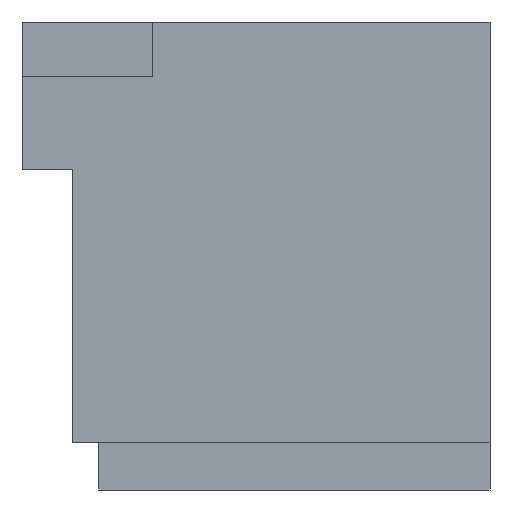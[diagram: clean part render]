
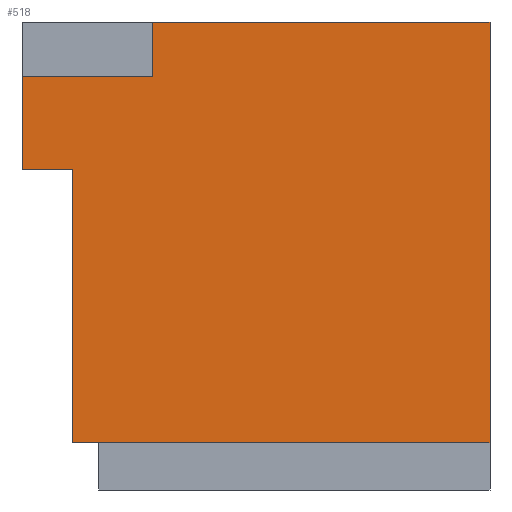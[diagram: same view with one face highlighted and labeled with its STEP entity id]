
A CAD part, front view. The second image highlights one B-rep face of the part: STEP entity #518.
In plain terms, the highlighted planar face has unit normal (0, -1, 0).
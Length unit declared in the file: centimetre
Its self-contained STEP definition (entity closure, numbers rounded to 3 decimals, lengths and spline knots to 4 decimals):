
#8 = DIRECTION ( 'NONE',  ( 1., 0., 0. ) ) ;
#13 = DIRECTION ( 'NONE',  ( 0., 0., 1. ) ) ;
#28 = VERTEX_POINT ( 'NONE', #1123 ) ;
#41 = VERTEX_POINT ( 'NONE', #512 ) ;
#49 = ORIENTED_EDGE ( 'NONE', *, *, #1105, .T. ) ;
#63 = VERTEX_POINT ( 'NONE', #77 ) ;
#65 = LINE ( 'NONE', #248, #1014 ) ;
#73 = CARTESIAN_POINT ( 'NONE',  ( 108.2708, 0., 684.1476 ) ) ;
#77 = CARTESIAN_POINT ( 'NONE',  ( 0., 0., 684.1476 ) ) ;
#92 = DIRECTION ( 'NONE',  ( -1., 0., 0. ) ) ;
#143 = VERTEX_POINT ( 'NONE', #378 ) ;
#187 = ORIENTED_EDGE ( 'NONE', *, *, #731, .T. ) ;
#193 = CARTESIAN_POINT ( 'NONE',  ( 278.4919, 0., 1000. ) ) ;
#207 = LINE ( 'NONE', #214, #485 ) ;
#214 = CARTESIAN_POINT ( 'NONE',  ( 278.4919, 0., 883.9255 ) ) ;
#217 = VERTEX_POINT ( 'NONE', #418 ) ;
#221 = EDGE_CURVE ( 'NONE', #822, #670, #207, .T. ) ;
#241 = VECTOR ( 'NONE', #8, 100. ) ;
#248 = CARTESIAN_POINT ( 'NONE',  ( 0., 0., 1000. ) ) ;
#305 = DIRECTION ( 'NONE',  ( 0., 0., 1. ) ) ;
#314 = ORIENTED_EDGE ( 'NONE', *, *, #1122, .F. ) ;
#329 = CARTESIAN_POINT ( 'NONE',  ( 0., 0., 1000. ) ) ;
#340 = DIRECTION ( 'NONE',  ( 0., 0., -1. ) ) ;
#341 = EDGE_CURVE ( 'NONE', #28, #63, #796, .T. ) ;
#345 = CARTESIAN_POINT ( 'NONE',  ( 1000., 0., 1000. ) ) ;
#351 = LINE ( 'NONE', #345, #417 ) ;
#352 = PLANE ( 'NONE',  #656 ) ;
#359 = CARTESIAN_POINT ( 'NONE',  ( 0., 0., 883.9255 ) ) ;
#378 = CARTESIAN_POINT ( 'NONE',  ( 108.2708, 0., 100.5304 ) ) ;
#402 = CARTESIAN_POINT ( 'NONE',  ( 278.4919, 0., 883.9255 ) ) ;
#417 = VECTOR ( 'NONE', #790, 100. ) ;
#418 = CARTESIAN_POINT ( 'NONE',  ( 0., 0., 883.9255 ) ) ;
#451 = CARTESIAN_POINT ( 'NONE',  ( 1000., 0., 1000. ) ) ;
#484 = ORIENTED_EDGE ( 'NONE', *, *, #629, .T. ) ;
#485 = VECTOR ( 'NONE', #305, 100. ) ;
#493 = ORIENTED_EDGE ( 'NONE', *, *, #614, .F. ) ;
#512 = CARTESIAN_POINT ( 'NONE',  ( 1000., 0., 100.5304 ) ) ;
#518 = ADVANCED_FACE ( 'NONE', ( #900 ), #352, .F. ) ;
#543 = CARTESIAN_POINT ( 'NONE',  ( 0., 0., 100.5304 ) ) ;
#592 = VECTOR ( 'NONE', #92, 100. ) ;
#614 = EDGE_CURVE ( 'NONE', #217, #822, #953, .T. ) ;
#629 = EDGE_CURVE ( 'NONE', #143, #41, #893, .T. ) ;
#642 = VECTOR ( 'NONE', #681, 100. ) ;
#656 = AXIS2_PLACEMENT_3D ( 'NONE', #791, #818, #13 ) ;
#670 = VERTEX_POINT ( 'NONE', #193 ) ;
#677 = EDGE_LOOP ( 'NONE', ( #187, #484, #314, #733, #756, #493, #49, #891 ) ) ;
#681 = DIRECTION ( 'NONE',  ( 1., 0., 0. ) ) ;
#729 = DIRECTION ( 'NONE',  ( 0., 0., -1. ) ) ;
#731 = EDGE_CURVE ( 'NONE', #28, #143, #894, .T. ) ;
#733 = ORIENTED_EDGE ( 'NONE', *, *, #1093, .F. ) ;
#756 = ORIENTED_EDGE ( 'NONE', *, *, #221, .F. ) ;
#786 = CARTESIAN_POINT ( 'NONE',  ( 108.2708, 0., 684.1476 ) ) ;
#790 = DIRECTION ( 'NONE',  ( 0., 0., -1. ) ) ;
#791 = CARTESIAN_POINT ( 'NONE',  ( 0., 0., 1000. ) ) ;
#796 = LINE ( 'NONE', #73, #592 ) ;
#813 = VERTEX_POINT ( 'NONE', #451 ) ;
#818 = DIRECTION ( 'NONE',  ( 0., 1., 0. ) ) ;
#822 = VERTEX_POINT ( 'NONE', #402 ) ;
#860 = VECTOR ( 'NONE', #729, 100. ) ;
#891 = ORIENTED_EDGE ( 'NONE', *, *, #341, .F. ) ;
#893 = LINE ( 'NONE', #543, #241 ) ;
#894 = LINE ( 'NONE', #786, #860 ) ;
#900 = FACE_OUTER_BOUND ( 'NONE', #677, .T. ) ;
#953 = LINE ( 'NONE', #359, #1090 ) ;
#1014 = VECTOR ( 'NONE', #340, 100. ) ;
#1068 = DIRECTION ( 'NONE',  ( 1., 0., 0. ) ) ;
#1090 = VECTOR ( 'NONE', #1068, 100. ) ;
#1093 = EDGE_CURVE ( 'NONE', #670, #813, #1112, .T. ) ;
#1105 = EDGE_CURVE ( 'NONE', #217, #63, #65, .T. ) ;
#1112 = LINE ( 'NONE', #329, #642 ) ;
#1122 = EDGE_CURVE ( 'NONE', #813, #41, #351, .T. ) ;
#1123 = CARTESIAN_POINT ( 'NONE',  ( 108.2708, 0., 684.1476 ) ) ;
